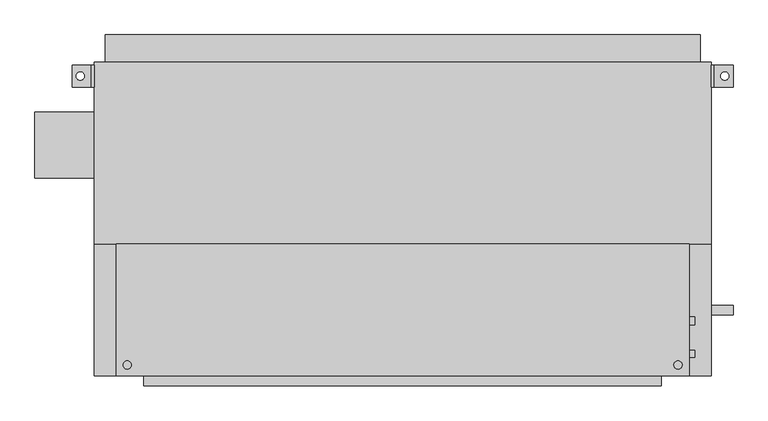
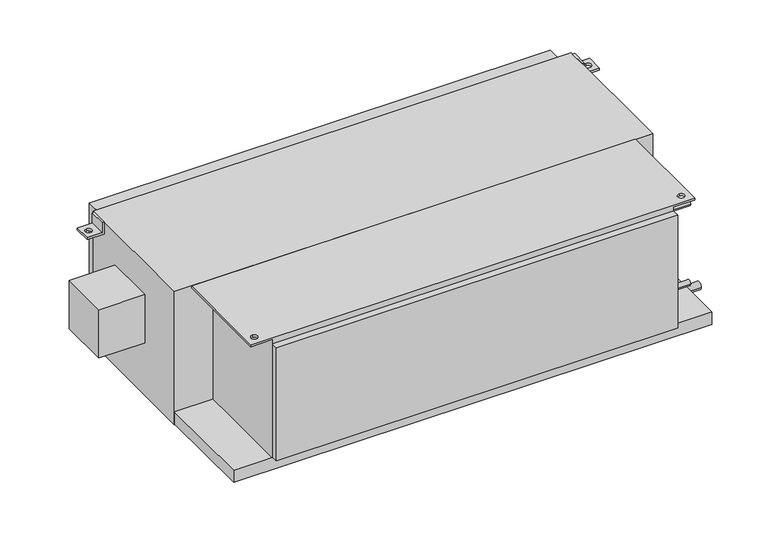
"""IFC4 building model written with IfcOpenShell, lengths in millimetres: proxy geometry, Concealed_High_Capacity_Horizontal_Fan_Coil_Unit_With_Plenum_-_42DCA_-_CARRIER_-_4-Pipe_RH_2022 : Size 20 - 277v/60Hz/1Ph - 6/2 Coil."""

from ifc_helpers import new_model, si_unit, point, frame, frame_2d, origin, place, context, project, spatial, polyline, circle_curve, trimmed, segment, composite_curve, outline, extrude, source, transform, mapped, element, save
from ifc_brep_helpers import plane_surface, revolved_surface, advanced_brep


def mechanical_equipment_3fc1bf52(model_context):
    return source(origin(), model_context, "Body", "SolidModel", [
        advanced_brep(
        [(-508.0, -85.725, 0.0), (-508.0, -390.525, 0.0), (812.8, -390.525, 0.0), (812.8, -85.725, 0.0), (-482.6, -374.65, 0.0), (-482.6, -355.6, 0.0), (787.4, -374.65, 0.0), (787.4, -355.6, 0.0), (749.3, -85.725, -377.825), (749.3, -390.525, -377.825), (-444.5, -390.525, -377.825), (-444.5, -85.725, -377.825), (-444.5, -85.725, -6.35), (-508.0, -85.725, -6.35), (812.8, -85.725, -6.35), (749.3, -85.725, -6.35), (-444.5, -390.525, -6.35), (749.3, -390.525, -6.35), (812.8, -390.525, -6.35), (-508.0, -390.525, -6.35), (-482.6, -355.6, -6.35), (-482.6, -374.65, -6.35), (787.4, -355.6, -6.35), (787.4, -374.65, -6.35)],
        [
            (0, 1),
            (1, 2),
            (2, 3),
            (3, 0),
            (4, 5, circle_curve(frame((-482.6, -365.125, 0.0), z_axis=(0.0, 0.0, -1.0), x_axis=(0.0, 1.0, 0.0)), 9.525)),
            (5, 4, circle_curve(frame((-482.6, -365.125, 0.0), z_axis=(0.0, 0.0, -1.0), x_axis=(0.0, 1.0, 0.0)), 9.525)),
            (6, 7, circle_curve(frame((787.4, -365.125, 0.0), z_axis=(0.0, 0.0, -1.0), x_axis=(0.0, 1.0, 0.0)), 9.525)),
            (7, 6, circle_curve(frame((787.4, -365.125, 0.0), z_axis=(0.0, 0.0, -1.0), x_axis=(0.0, 1.0, 0.0)), 9.525)),
            (8, 9),
            (9, 10),
            (10, 11),
            (11, 8),
            (11, 12),
            (12, 13),
            (13, 0),
            (3, 14),
            (14, 15),
            (15, 8),
            (10, 16),
            (16, 12),
            (9, 17),
            (17, 18),
            (18, 2),
            (1, 19),
            (19, 16),
            (15, 17),
            (19, 13),
            (20, 21, circle_curve(frame((-482.6, -365.125, -6.35), z_axis=(0.0, 0.0, 1.0), x_axis=(0.0, 1.0, 0.0)), 9.525)),
            (21, 20, circle_curve(frame((-482.6, -365.125, -6.35), z_axis=(0.0, 0.0, 1.0), x_axis=(0.0, 1.0, 0.0)), 9.525)),
            (14, 18),
            (22, 23, circle_curve(frame((787.4, -365.125, -6.35), z_axis=(0.0, 0.0, 1.0), x_axis=(0.0, 1.0, 0.0)), 9.525)),
            (23, 22, circle_curve(frame((787.4, -365.125, -6.35), z_axis=(0.0, 0.0, 1.0), x_axis=(0.0, 1.0, 0.0)), 9.525)),
            (4, 21),
            (20, 5),
            (6, 23),
            (22, 7),
        ],
        [
            plane_surface(frame((-444.5, -85.725, 0.0), z_axis=(0.0, 0.0, 1.0), x_axis=(-1.0, 0.0, 0.0))),
            plane_surface(frame((-444.5, -85.725, -377.825), z_axis=(0.0, 0.0, -1.0), x_axis=(1.0, 0.0, 0.0))),
            plane_surface(frame((749.3, -85.725, 0.0), z_axis=(0.0, 1.0, 0.0), x_axis=(0.0, 0.0, -1.0))),
            plane_surface(frame((-444.5, -85.725, 0.0), z_axis=(-1.0, 0.0, 0.0), x_axis=(0.0, 0.0, -1.0))),
            plane_surface(frame((-444.5, -390.525, 0.0), z_axis=(0.0, -1.0, 0.0), x_axis=(0.0, 0.0, -1.0))),
            plane_surface(frame((749.3, -390.525, 0.0), z_axis=(1.0, 0.0, 0.0), x_axis=(0.0, 0.0, -1.0))),
            plane_surface(frame((-508.0, -85.725, -6.35), z_axis=(0.0, 0.0, -1.0), x_axis=(0.0, 1.0, 0.0))),
            plane_surface(frame((-508.0, -85.725, 0.0), z_axis=(-1.0, 0.0, 0.0), x_axis=(0.0, 0.0, -1.0))),
            plane_surface(frame((812.8, -390.525, 0.0), z_axis=(1.0, 0.0, 0.0), x_axis=(0.0, 0.0, -1.0))),
            revolved_surface(polyline([(-482.6, -355.6, -6.35), (-482.6, -355.6, 0.0)]), (-482.6, -365.125, 0.0), (0.0, 0.0, -1.0)),
            revolved_surface(polyline([(787.4, -355.6, -6.35), (787.4, -355.6, 0.0)]), (787.4, -365.125, 0.0), (0.0, 0.0, -1.0)),
        ],
        [
            (0, [[1, 2, 3, 4], [5, 6], [7, 8]]),
            (1, [[9, 10, 11, 12]]),
            (2, [[-12, 13, 14, 15, -4, 16, 17, 18]]),
            (3, [[-11, 19, 20, -13]]),
            (4, [[-10, 21, 22, 23, -2, 24, 25, -19]]),
            (5, [[-9, -18, 26, -21]]),
            (6, [[-14, -20, -25, 27], [28, 29]]),
            (6, [[30, -22, -26, -17], [31, 32]]),
            (7, [[-27, -24, -1, -15]]),
            (8, [[-30, -16, -3, -23]]),
            (9, [[33, -28, 34, -5]]),
            (9, [[-33, -6, -34, -29]]),
            (10, [[35, -31, 36, -7]]),
            (10, [[-35, -8, -36, -32]]),
        ],
    ),
        advanced_brep(
        [(-558.8, 327.025, -38.1), (-609.6, 327.025, -38.1), (-609.6, 327.025, -31.75), (-565.15, 327.025, -31.75), (-565.15, 327.025, 0.0), (-558.8, 327.025, 0.0), (-558.8, 276.225, -38.1), (-558.8, 276.225, 0.0), (-565.15, 276.225, 0.0), (-565.15, 276.225, -31.75), (-609.6, 276.225, -31.75), (-609.6, 276.225, -38.1), (-590.55, 292.1, -38.1), (-590.55, 311.15, -38.1), (-590.55, 311.15, -31.75), (-590.55, 292.1, -31.75)],
        [
            (0, 1),
            (1, 2),
            (2, 3),
            (3, 4),
            (4, 5),
            (5, 0),
            (6, 7),
            (7, 8),
            (8, 9),
            (9, 10),
            (10, 11),
            (11, 6),
            (0, 6),
            (11, 1),
            (12, 13, circle_curve(frame((-590.55, 301.625, -38.1), z_axis=(0.0, 0.0, 1.0), x_axis=(0.0, -1.0, 0.0)), 9.525)),
            (13, 12, circle_curve(frame((-590.55, 301.625, -38.1), z_axis=(0.0, 0.0, 1.0), x_axis=(0.0, -1.0, 0.0)), 9.525)),
            (10, 2),
            (9, 3),
            (14, 15, circle_curve(frame((-590.55, 301.625, -31.75), z_axis=(0.0, 0.0, -1.0), x_axis=(0.0, -1.0, 0.0)), 9.525)),
            (15, 14, circle_curve(frame((-590.55, 301.625, -31.75), z_axis=(0.0, 0.0, -1.0), x_axis=(0.0, -1.0, 0.0)), 9.525)),
            (8, 4),
            (7, 5),
            (14, 13),
            (12, 15),
        ],
        [
            plane_surface(frame((-558.8, 327.025, -38.1), z_axis=(0.0, 1.0, 0.0), x_axis=(-1.0, 0.0, 0.0))),
            plane_surface(frame((-558.8, 276.225, -38.1), z_axis=(0.0, -1.0, 0.0), x_axis=(1.0, 0.0, 0.0))),
            plane_surface(frame((-558.8, 327.025, -38.1), z_axis=(0.0, 0.0, -1.0), x_axis=(0.0, -1.0, 0.0))),
            plane_surface(frame((-609.6, 327.025, -38.1), z_axis=(-1.0, 0.0, 0.0), x_axis=(0.0, -1.0, 0.0))),
            plane_surface(frame((-609.6, 327.025, -31.75), z_axis=(0.0, 0.0, 1.0), x_axis=(0.0, -1.0, 0.0))),
            plane_surface(frame((-565.15, 327.025, -31.75), z_axis=(-1.0, 0.0, 0.0), x_axis=(0.0, -1.0, 0.0))),
            plane_surface(frame((-565.15, 327.025, 0.0), z_axis=(0.0, 0.0, 1.0), x_axis=(0.0, -1.0, 0.0))),
            plane_surface(frame((-558.8, 327.025, 0.0), z_axis=(1.0, 0.0, 0.0), x_axis=(0.0, -1.0, 0.0))),
            revolved_surface(polyline([(-590.55, 292.1, -38.1), (-590.55, 292.1, -31.75)]), (-590.55, 301.625, -31.75), (0.0, 0.0, -1.0)),
        ],
        [
            (0, [[1, 2, 3, 4, 5, 6]]),
            (1, [[7, 8, 9, 10, 11, 12]]),
            (2, [[-1, 13, -12, 14], [15, 16]]),
            (3, [[-2, -14, -11, 17]]),
            (4, [[-3, -17, -10, 18], [19, 20]]),
            (5, [[-4, -18, -9, 21]]),
            (6, [[-5, -21, -8, 22]]),
            (7, [[-6, -22, -7, -13]]),
            (8, [[23, -15, 24, -19]]),
            (8, [[-23, -20, -24, -16]]),
        ],
    ),
        advanced_brep(
        [(863.6, 327.025, -38.1), (863.6, 327.025, 0.0), (869.95, 327.025, 0.0), (869.95, 327.025, -31.75), (914.4, 327.025, -31.75), (914.4, 327.025, -38.1), (863.6, 276.225, -38.1), (914.4, 276.225, -38.1), (914.4, 276.225, -31.75), (869.95, 276.225, -31.75), (869.95, 276.225, 0.0), (863.6, 276.225, 0.0), (895.35, 311.15, -31.75), (895.35, 292.1, -31.75), (895.35, 292.1, -38.1), (895.35, 311.15, -38.1)],
        [
            (0, 1),
            (1, 2),
            (2, 3),
            (3, 4),
            (4, 5),
            (5, 0),
            (6, 7),
            (7, 8),
            (8, 9),
            (9, 10),
            (10, 11),
            (11, 6),
            (0, 6),
            (11, 1),
            (10, 2),
            (9, 3),
            (8, 4),
            (12, 13, circle_curve(frame((895.35, 301.625, -31.75), z_axis=(0.0, 0.0, -1.0), x_axis=(0.0, -1.0, 0.0)), 9.525)),
            (13, 12, circle_curve(frame((895.35, 301.625, -31.75), z_axis=(0.0, 0.0, -1.0), x_axis=(0.0, -1.0, 0.0)), 9.525)),
            (7, 5),
            (14, 15, circle_curve(frame((895.35, 301.625, -38.1), z_axis=(0.0, 0.0, 1.0), x_axis=(0.0, -1.0, 0.0)), 9.525)),
            (15, 14, circle_curve(frame((895.35, 301.625, -38.1), z_axis=(0.0, 0.0, 1.0), x_axis=(0.0, -1.0, 0.0)), 9.525)),
            (12, 15),
            (14, 13),
        ],
        [
            plane_surface(frame((-558.8, 327.025, -38.1), z_axis=(0.0, 1.0, 0.0), x_axis=(-1.0, 0.0, 0.0))),
            plane_surface(frame((-558.8, 276.225, -38.1), z_axis=(0.0, -1.0, 0.0), x_axis=(1.0, 0.0, 0.0))),
            plane_surface(frame((863.6, 327.025, -38.1), z_axis=(-1.0, 0.0, 0.0), x_axis=(0.0, -1.0, 0.0))),
            plane_surface(frame((863.6, 327.025, 0.0), z_axis=(0.0, 0.0, 1.0), x_axis=(0.0, -1.0, 0.0))),
            plane_surface(frame((869.95, 327.025, 0.0), z_axis=(1.0, 0.0, 0.0), x_axis=(0.0, -1.0, 0.0))),
            plane_surface(frame((869.95, 327.025, -31.75), z_axis=(0.0, 0.0, 1.0), x_axis=(0.0, -1.0, 0.0))),
            plane_surface(frame((914.4, 327.025, -31.75), z_axis=(1.0, 0.0, 0.0), x_axis=(0.0, -1.0, 0.0))),
            plane_surface(frame((914.4, 327.025, -38.1), z_axis=(0.0, 0.0, -1.0), x_axis=(0.0, -1.0, 0.0))),
            revolved_surface(polyline([(895.35, 292.1, -38.1), (895.35, 292.1, -31.75)]), (895.35, 301.625, -31.75), (0.0, 0.0, -1.0)),
        ],
        [
            (0, [[1, 2, 3, 4, 5, 6]]),
            (1, [[7, 8, 9, 10, 11, 12]]),
            (2, [[-1, 13, -12, 14]]),
            (3, [[-2, -14, -11, 15]]),
            (4, [[-3, -15, -10, 16]]),
            (5, [[-4, -16, -9, 17], [18, 19]]),
            (6, [[-5, -17, -8, 20]]),
            (7, [[-6, -20, -7, -13], [21, 22]]),
            (8, [[23, -21, 24, -18]]),
            (8, [[-23, -19, -24, -22]]),
        ],
    ),
        extrude(outline(polyline([(-533.4, 396.875), (838.2, 396.875), (838.2, 333.375), (-533.4, 333.375), (-533.4, 396.875)])), frame((0.0, 0.0, -377.825), z_axis=(0.0, 0.0, 1.0), x_axis=(1.0, 0.0, 0.0)), (0.0, 0.0, 1.0), 355.6),
        extrude(outline(composite_curve([segment(trimmed(circle_curve(frame_2d((-263.525, -76.2)), 9.525), [point((-254.0, -76.2))], [point((-273.05, -76.2))], False, "CARTESIAN"), True, "CONTINUOUS"), segment(trimmed(circle_curve(frame_2d((-263.525, -76.2)), 9.525), [point((-273.05, -76.2))], [point((-254.0, -76.2))], False, "CARTESIAN"), True, "CONTINUOUS")], self_intersect=False)), frame((749.3, 0.0, 0.0), z_axis=(1.0, 0.0, 0.0), x_axis=(0.0, 1.0, 0.0)), (0.0, 0.0, 1.0), 76.2),
        extrude(outline(composite_curve([segment(trimmed(circle_curve(frame_2d((-263.525, -301.625)), 9.525), [point((-254.0, -301.625))], [point((-273.05, -301.625))], False, "CARTESIAN"), True, "CONTINUOUS"), segment(trimmed(circle_curve(frame_2d((-263.525, -301.625)), 9.525), [point((-273.05, -301.625))], [point((-254.0, -301.625))], False, "CARTESIAN"), True, "CONTINUOUS")], self_intersect=False)), frame((749.3, 0.0, 0.0), z_axis=(1.0, 0.0, 0.0), x_axis=(0.0, 1.0, 0.0)), (0.0, 0.0, 1.0), 76.2),
        extrude(outline(composite_curve([segment(trimmed(circle_curve(frame_2d((-339.725, -50.8)), 7.9375), [point((-331.7875, -50.8))], [point((-347.6625, -50.8))], False, "CARTESIAN"), True, "CONTINUOUS"), segment(trimmed(circle_curve(frame_2d((-339.725, -50.8)), 7.9375), [point((-347.6625, -50.8))], [point((-331.7875, -50.8))], False, "CARTESIAN"), True, "CONTINUOUS")], self_intersect=False)), frame((749.3, 0.0, 0.0), z_axis=(1.0, 0.0, 0.0), x_axis=(0.0, 1.0, 0.0)), (0.0, 0.0, 1.0), 76.2),
        extrude(outline(composite_curve([segment(trimmed(circle_curve(frame_2d((-339.725, -301.625)), 7.9375), [point((-331.7875, -301.625))], [point((-347.6625, -301.625))], False, "CARTESIAN"), True, "CONTINUOUS"), segment(trimmed(circle_curve(frame_2d((-339.725, -301.625)), 7.9375), [point((-347.6625, -301.625))], [point((-331.7875, -301.625))], False, "CARTESIAN"), True, "CONTINUOUS")], self_intersect=False)), frame((749.3, 0.0, 0.0), z_axis=(1.0, 0.0, 0.0), x_axis=(0.0, 1.0, 0.0)), (0.0, 0.0, 1.0), 76.2),
        extrude(outline(composite_curve([segment(trimmed(circle_curve(frame_2d((-238.125, -403.225)), 11.1125), [point((-227.0125, -403.225))], [point((-249.2375, -403.225))], False, "CARTESIAN"), True, "CONTINUOUS"), segment(trimmed(circle_curve(frame_2d((-238.125, -403.225)), 11.1125), [point((-249.2375, -403.225))], [point((-227.0125, -403.225))], False, "CARTESIAN"), True, "CONTINUOUS")], self_intersect=False)), frame((863.6, 0.0, 0.0), z_axis=(1.0, 0.0, 0.0), x_axis=(0.0, 1.0, 0.0)), (0.0, 0.0, 1.0), 50.8),
        extrude(outline(polyline([(-695.325, 66.675), (-695.325, 219.075), (-558.8, 219.075), (-558.8, 66.675), (-695.325, 66.675)])), frame((0.0, 0.0, -254.0), z_axis=(0.0, 0.0, 1.0), x_axis=(1.0, 0.0, 0.0)), (0.0, 0.0, 1.0), 152.4),
        extrude(outline(polyline([(749.3, -412.75), (-444.5, -412.75), (-444.5, -390.525), (749.3, -390.525), (749.3, -412.75)])), frame((0.0, 0.0, -374.65), z_axis=(0.0, 0.0, 1.0), x_axis=(1.0, 0.0, 0.0)), (0.0, 0.0, 1.0), 355.6),
        extrude(outline(polyline([(863.6, -85.725), (-558.8, -85.725), (-558.8, 333.375), (863.6, 333.375), (863.6, -85.725)])), frame((0.0, 0.0, -419.1), z_axis=(0.0, 0.0, 1.0), x_axis=(1.0, 0.0, 0.0)), (0.0, 0.0, 1.0), 419.1),
        extrude(outline(polyline([(863.6, -85.725), (863.6, -390.525), (-558.8, -390.525), (-558.8, -85.725), (863.6, -85.725)])), frame((0.0, 0.0, -415.925), z_axis=(0.0, 0.0, 1.0), x_axis=(1.0, 0.0, 0.0)), (0.0, 0.0, 1.0), 38.1),
    ])


if __name__ == "__main__":
    model = new_model("IFC4")
    model_context = context("Model", 3, world=origin())
    ifc_project = project(units=[si_unit("LENGTHUNIT", "METRE", prefix="MILLI")], contexts=[model_context])
    site = spatial("IfcSite", under=ifc_project)
    building = spatial("IfcBuilding", under=site)
    placement = place(None, origin())
    mechanical_equipment_shape = mechanical_equipment_3fc1bf52(model_context)
    element("IfcBuildingElementProxy", 1, Name="Concealed_High_Capacity_Horizontal_Fan_Coil_Unit_With_Plenum_-_42DCA_-_CARRIER_-_4-Pipe_RH_2022 : Size 20 - 277v/60Hz/1Ph - 6/2 Coil", ObjectType="Concealed_High_Capacity_Horizontal_Fan_Coil_Unit_With_Plenum_-_42DCA_-_CARRIER_-_4-Pipe_RH_2022 : Size 20 - 277v/60Hz/1Ph - 6/2 Coil", at=placement, inside=building, context=model_context, shape_type="MappedRepresentation", body=[
        mapped(mechanical_equipment_shape, transform((0.0, 0.0, 0.0), x_axis=(1.0, 0.0, 0.0), y_axis=(0.0, 1.0, 0.0), z_axis=(0.0, 0.0, 1.0))),
    ])
    save(model, "model.ifc")
